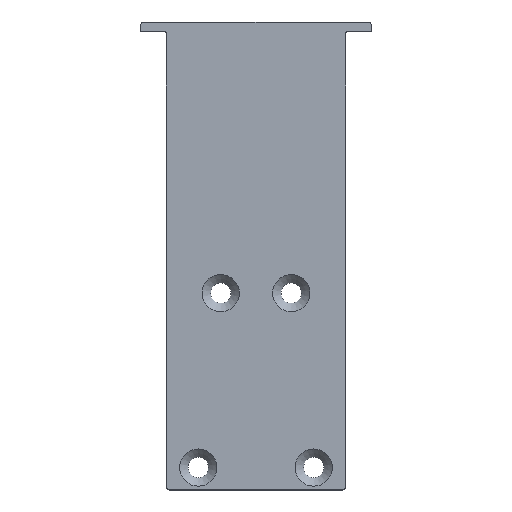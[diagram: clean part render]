
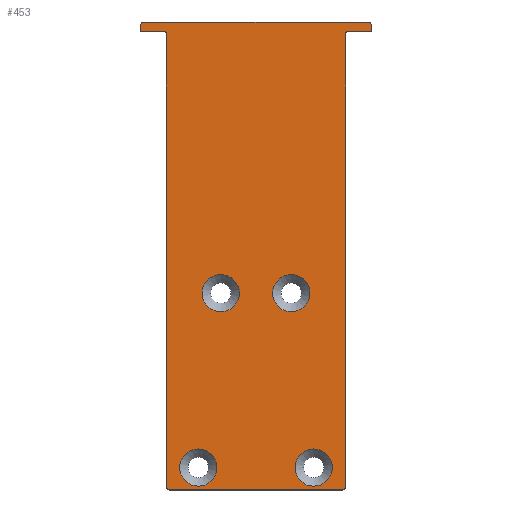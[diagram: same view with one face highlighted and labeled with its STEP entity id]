
A CAD part, top view. The second image highlights one B-rep face of the part: STEP entity #453.
In plain terms, the highlighted planar face has unit normal (0, 0, 1).
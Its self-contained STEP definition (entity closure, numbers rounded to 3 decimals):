
#24=CIRCLE('',#487,0.5);
#26=CIRCLE('',#491,0.5);
#38=CIRCLE('',#507,0.5);
#39=CIRCLE('',#508,0.2);
#40=CIRCLE('',#509,0.2);
#41=CIRCLE('',#510,0.2);
#42=CIRCLE('',#511,0.2);
#43=CIRCLE('',#512,0.5);
#44=CIRCLE('',#513,2.9);
#45=CIRCLE('',#514,2.9);
#46=CIRCLE('',#515,2.9);
#47=CIRCLE('',#516,2.9);
#108=ORIENTED_EDGE('',*,*,#201,.T.);
#109=ORIENTED_EDGE('',*,*,#218,.T.);
#110=ORIENTED_EDGE('',*,*,#219,.T.);
#111=ORIENTED_EDGE('',*,*,#220,.T.);
#112=ORIENTED_EDGE('',*,*,#221,.T.);
#113=ORIENTED_EDGE('',*,*,#222,.T.);
#114=ORIENTED_EDGE('',*,*,#187,.T.);
#115=ORIENTED_EDGE('',*,*,#188,.T.);
#116=ORIENTED_EDGE('',*,*,#191,.T.);
#117=ORIENTED_EDGE('',*,*,#194,.T.);
#118=ORIENTED_EDGE('',*,*,#198,.T.);
#119=ORIENTED_EDGE('',*,*,#223,.T.);
#120=ORIENTED_EDGE('',*,*,#224,.T.);
#121=ORIENTED_EDGE('',*,*,#225,.T.);
#122=ORIENTED_EDGE('',*,*,#226,.T.);
#123=ORIENTED_EDGE('',*,*,#227,.T.);
#124=ORIENTED_EDGE('',*,*,#228,.T.);
#125=ORIENTED_EDGE('',*,*,#229,.T.);
#126=ORIENTED_EDGE('',*,*,#230,.T.);
#127=ORIENTED_EDGE('',*,*,#231,.T.);
#187=EDGE_CURVE('',#245,#247,#291,.T.);
#188=EDGE_CURVE('',#247,#248,#24,.T.);
#191=EDGE_CURVE('',#248,#250,#293,.T.);
#194=EDGE_CURVE('',#250,#252,#26,.T.);
#198=EDGE_CURVE('',#252,#255,#298,.T.);
#201=EDGE_CURVE('',#258,#257,#301,.T.);
#218=EDGE_CURVE('',#257,#272,#38,.T.);
#219=EDGE_CURVE('',#272,#273,#308,.T.);
#220=EDGE_CURVE('',#273,#274,#39,.T.);
#221=EDGE_CURVE('',#274,#275,#309,.T.);
#222=EDGE_CURVE('',#275,#245,#40,.T.);
#223=EDGE_CURVE('',#255,#276,#41,.T.);
#224=EDGE_CURVE('',#276,#277,#310,.T.);
#225=EDGE_CURVE('',#277,#278,#42,.T.);
#226=EDGE_CURVE('',#278,#279,#311,.T.);
#227=EDGE_CURVE('',#279,#258,#43,.T.);
#228=EDGE_CURVE('',#280,#280,#44,.T.);
#229=EDGE_CURVE('',#281,#281,#45,.T.);
#230=EDGE_CURVE('',#282,#282,#46,.T.);
#231=EDGE_CURVE('',#283,#283,#47,.T.);
#245=VERTEX_POINT('',#685);
#247=VERTEX_POINT('',#689);
#248=VERTEX_POINT('',#693);
#250=VERTEX_POINT('',#699);
#252=VERTEX_POINT('',#705);
#255=VERTEX_POINT('',#712);
#257=VERTEX_POINT('',#718);
#258=VERTEX_POINT('',#720);
#272=VERTEX_POINT('',#753);
#273=VERTEX_POINT('',#755);
#274=VERTEX_POINT('',#757);
#275=VERTEX_POINT('',#759);
#276=VERTEX_POINT('',#762);
#277=VERTEX_POINT('',#764);
#278=VERTEX_POINT('',#766);
#279=VERTEX_POINT('',#768);
#280=VERTEX_POINT('',#771);
#281=VERTEX_POINT('',#773);
#282=VERTEX_POINT('',#775);
#283=VERTEX_POINT('',#777);
#291=LINE('',#690,#323);
#293=LINE('',#698,#325);
#298=LINE('',#713,#330);
#301=LINE('',#719,#333);
#308=LINE('',#754,#340);
#309=LINE('',#758,#341);
#310=LINE('',#763,#342);
#311=LINE('',#767,#343);
#323=VECTOR('',#546,1000.);
#325=VECTOR('',#556,1000.);
#330=VECTOR('',#569,1000.);
#333=VECTOR('',#574,1000.);
#340=VECTOR('',#607,1000.);
#341=VECTOR('',#610,1000.);
#342=VECTOR('',#615,1000.);
#343=VECTOR('',#618,1000.);
#363=EDGE_LOOP('',(#108,#109,#110,#111,#112,#113,#114,#115,#116,#117,#118,
#119,#120,#121,#122,#123));
#364=EDGE_LOOP('',(#124));
#365=EDGE_LOOP('',(#125));
#366=EDGE_LOOP('',(#126));
#367=EDGE_LOOP('',(#127));
#405=FACE_BOUND('',#363,.T.);
#406=FACE_BOUND('',#364,.T.);
#407=FACE_BOUND('',#365,.T.);
#408=FACE_BOUND('',#366,.T.);
#409=FACE_BOUND('',#367,.T.);
#441=PLANE('',#506);
#453=ADVANCED_FACE('',(#405,#406,#407,#408,#409),#441,.T.);
#487=AXIS2_PLACEMENT_3D('',#692,#549,#550);
#491=AXIS2_PLACEMENT_3D('',#704,#561,#562);
#506=AXIS2_PLACEMENT_3D('',#751,#603,#604);
#507=AXIS2_PLACEMENT_3D('',#752,#605,#606);
#508=AXIS2_PLACEMENT_3D('',#756,#608,#609);
#509=AXIS2_PLACEMENT_3D('',#760,#611,#612);
#510=AXIS2_PLACEMENT_3D('',#761,#613,#614);
#511=AXIS2_PLACEMENT_3D('',#765,#616,#617);
#512=AXIS2_PLACEMENT_3D('',#769,#619,#620);
#513=AXIS2_PLACEMENT_3D('',#770,#621,#622);
#514=AXIS2_PLACEMENT_3D('',#772,#623,#624);
#515=AXIS2_PLACEMENT_3D('',#774,#625,#626);
#516=AXIS2_PLACEMENT_3D('',#776,#627,#628);
#546=DIRECTION('',(0.,-1.,0.));
#549=DIRECTION('',(0.,0.,1.));
#550=DIRECTION('',(1.,0.,0.));
#556=DIRECTION('',(1.,0.,0.));
#561=DIRECTION('',(0.,0.,1.));
#562=DIRECTION('',(-1.,0.,0.));
#569=DIRECTION('',(0.,1.,0.));
#574=DIRECTION('',(-1.,0.,0.));
#603=DIRECTION('',(0.,0.,1.));
#604=DIRECTION('',(1.,0.,0.));
#605=DIRECTION('',(0.,0.,1.));
#606=DIRECTION('',(1.,0.,0.));
#607=DIRECTION('',(0.,-1.,0.));
#608=DIRECTION('',(0.,0.,1.));
#609=DIRECTION('',(1.,0.,0.));
#610=DIRECTION('',(1.,0.,0.));
#611=DIRECTION('',(0.,0.,-1.));
#612=DIRECTION('',(-1.,0.,0.));
#613=DIRECTION('',(0.,0.,-1.));
#614=DIRECTION('',(-1.,0.,0.));
#615=DIRECTION('',(1.,0.,0.));
#616=DIRECTION('',(0.,0.,1.));
#617=DIRECTION('',(-1.,0.,0.));
#618=DIRECTION('',(0.,1.,0.));
#619=DIRECTION('',(0.,0.,1.));
#620=DIRECTION('',(-1.,0.,0.));
#621=DIRECTION('',(0.,0.,-1.));
#622=DIRECTION('',(0.,1.,0.));
#623=DIRECTION('',(0.,0.,-1.));
#624=DIRECTION('',(0.,1.,0.));
#625=DIRECTION('',(0.,0.,-1.));
#626=DIRECTION('',(0.,1.,0.));
#627=DIRECTION('',(0.,0.,-1.));
#628=DIRECTION('',(0.,1.,0.));
#685=CARTESIAN_POINT('',(-14.,39.3,0.));
#689=CARTESIAN_POINT('',(-14.,-31.5,0.));
#690=CARTESIAN_POINT('',(-14.,40.5,0.));
#692=CARTESIAN_POINT('',(-13.5,-31.5,0.));
#693=CARTESIAN_POINT('',(-13.5,-32.,0.));
#698=CARTESIAN_POINT('',(-13.5,-32.,0.));
#699=CARTESIAN_POINT('',(13.5,-32.,0.));
#704=CARTESIAN_POINT('',(13.5,-31.5,0.));
#705=CARTESIAN_POINT('',(14.,-31.5,0.));
#712=CARTESIAN_POINT('',(14.,39.3,0.));
#713=CARTESIAN_POINT('',(14.,-31.5,0.));
#718=CARTESIAN_POINT('',(-17.5,41.,0.));
#719=CARTESIAN_POINT('',(13.5,41.,0.));
#720=CARTESIAN_POINT('',(17.5,41.,0.));
#751=CARTESIAN_POINT('',(-13.5,40.5,0.));
#752=CARTESIAN_POINT('',(-17.5,40.5,0.));
#753=CARTESIAN_POINT('',(-18.,40.5,0.));
#754=CARTESIAN_POINT('',(-18.,40.5,0.));
#755=CARTESIAN_POINT('',(-18.,39.7,0.));
#756=CARTESIAN_POINT('',(-17.8,39.7,0.));
#757=CARTESIAN_POINT('',(-17.8,39.5,0.));
#758=CARTESIAN_POINT('',(-17.8,39.5,0.));
#759=CARTESIAN_POINT('',(-14.2,39.5,0.));
#760=CARTESIAN_POINT('',(-14.2,39.3,0.));
#761=CARTESIAN_POINT('',(14.2,39.3,0.));
#762=CARTESIAN_POINT('',(14.2,39.5,0.));
#763=CARTESIAN_POINT('',(14.2,39.5,0.));
#764=CARTESIAN_POINT('',(17.8,39.5,0.));
#765=CARTESIAN_POINT('',(17.8,39.7,0.));
#766=CARTESIAN_POINT('',(18.,39.7,0.));
#767=CARTESIAN_POINT('',(18.,39.7,0.));
#768=CARTESIAN_POINT('',(18.,40.5,0.));
#769=CARTESIAN_POINT('',(17.5,40.5,0.));
#770=CARTESIAN_POINT('',(-5.5,-1.3,0.));
#771=CARTESIAN_POINT('',(-5.5,1.6,0.));
#772=CARTESIAN_POINT('',(5.5,-1.3,0.));
#773=CARTESIAN_POINT('',(5.5,1.6,0.));
#774=CARTESIAN_POINT('',(-9.,-28.5,0.));
#775=CARTESIAN_POINT('',(-9.,-25.6,0.));
#776=CARTESIAN_POINT('',(9.,-28.5,0.));
#777=CARTESIAN_POINT('',(9.,-25.6,0.));
